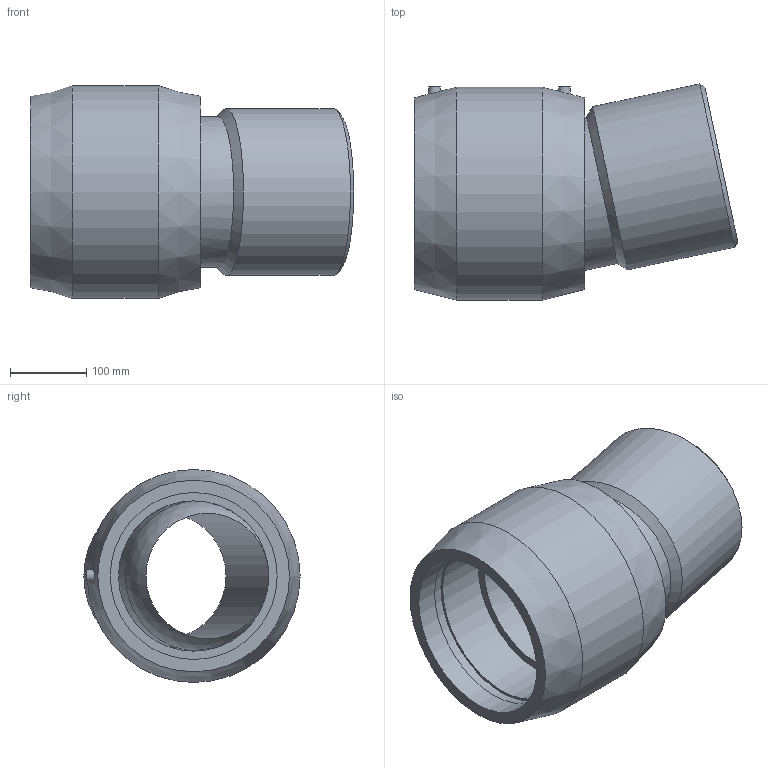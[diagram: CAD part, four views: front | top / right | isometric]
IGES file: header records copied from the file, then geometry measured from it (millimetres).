
Global section: file name: 5947B0S3080.ipt; native system: Autodesk Inventor 2019; preprocessor: unknown; author: KIM; date: 20210830.101221; units: inch
Bounding box: 423.78 x 283.32 x 278.89 mm (x, y, z)
Volume: 8728248.4 mm3; surface area: 673665.2 mm2
Topology: 1 solids, 1 shells, 31 faces, 71 edges, 47 vertices
Faces by surface type: plane 11, revolution 7, cone 6, cylinder 6, sphere 1
Full cylindrical faces by diameter (mm): 4 x2, 196.83 x1, 218.7 x1, 278.892 x1
